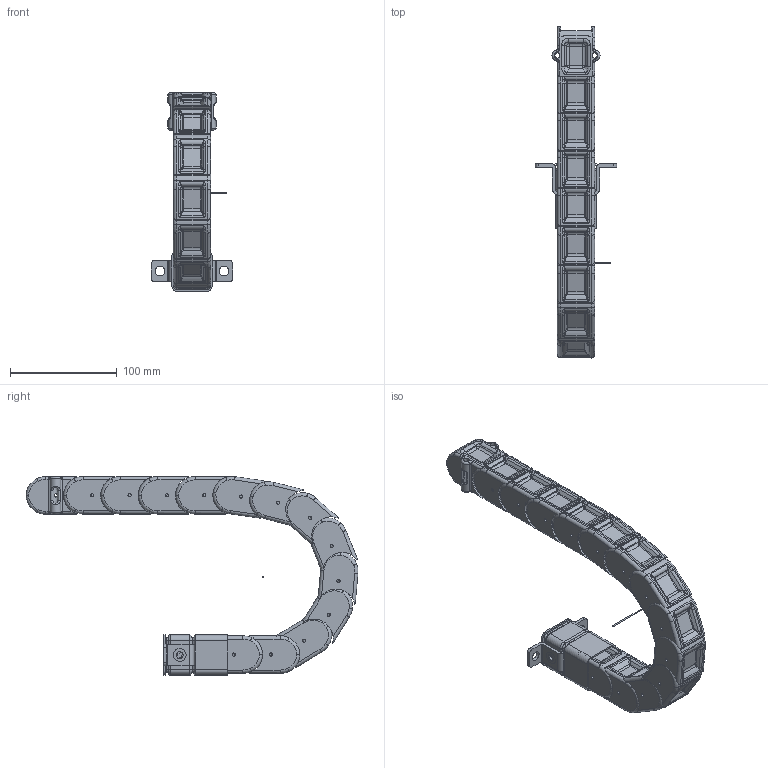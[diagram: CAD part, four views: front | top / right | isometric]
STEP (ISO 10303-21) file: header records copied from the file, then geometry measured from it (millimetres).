
FILE_DESCRIPTION((''),'2;1');
FILE_NAME('C:\Uebbing\PARAMETERKETTEN\PFR\PFR 121\PFR 121 R75.stp','2012-03-30T08:04:45',('Uebbing'),(''),'Autodesk Inventor 10','Autodesk Inventor 10','');
FILE_SCHEMA(('AUTOMOTIVE_DESIGN { 1 0 10303 214 1 1 1 1 }'));
Length unit declared in the file: millimetre
Products named in the file (8): PFR 121 PARAMETRISCH; Achse; PFR121 Normalanschluss; PFR121-KAnschluss; Rändelmutter M6 flach; Anschlusswinkel; Imbusschraube M6x5 Senkkopf; PFR121 Glied R75 
Assembly tree (22 placements, depth 2):
  PFR 121 PARAMETRISCH
    Achse
    PFR121 Normalanschluss
    PFR121-KAnschluss
    Rändelmutter M6 flach  x2
    Anschlusswinkel  x2
    Imbusschraube M6x5 Senkkopf  x2
    PFR121 Glied R75   x13
Bounding box: 76 x 310.5 x 186.02 mm (x, y, z)
Volume: 270964.5 mm3; surface area: 197453.9 mm2
Topology: 22 solids, 22 shells, 2731 faces, 6866 edges, 4083 vertices
Faces by surface type: bspline 1388, plane 618, cylinder 615, torus 102, cone 8
Full cylindrical faces by diameter (mm): 1 x1, 3 x14, 5 x1, 6 x4, 6.5 x2, 9 x4, 9.2 x2, 11 x2, 12 x2
Entity records: 33408 total; most frequent: CARTESIAN_POINT 19608, ORIENTED_EDGE 2872, DIRECTION 2736, EDGE_CURVE 1436, AXIS2_PLACEMENT_3D 1025, VERTEX_POINT 864, VECTOR 686, LINE 686
